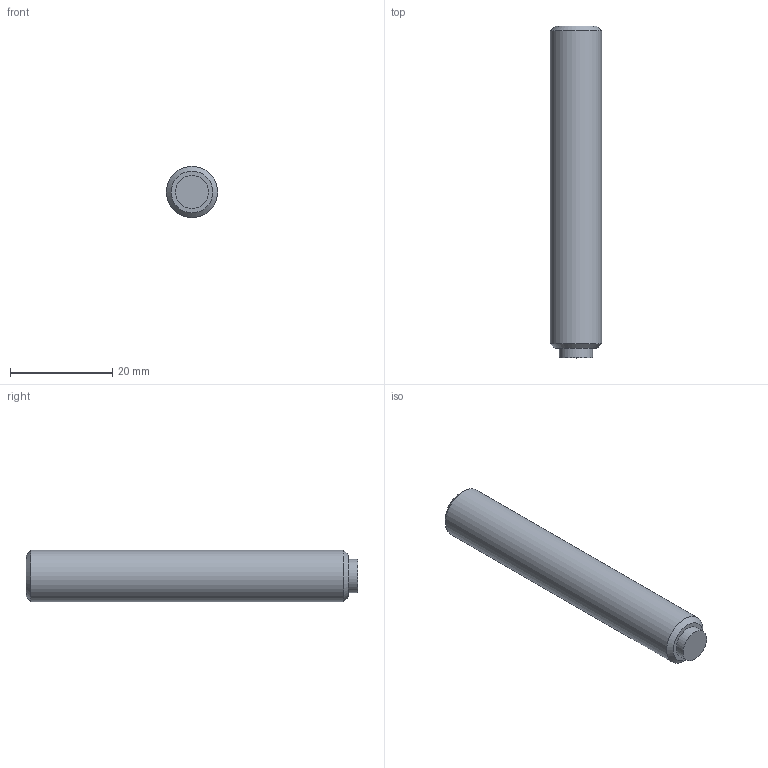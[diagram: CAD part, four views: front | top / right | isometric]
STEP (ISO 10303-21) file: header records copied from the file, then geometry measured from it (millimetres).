
FILE_DESCRIPTION( ( 'STEP AP203' ), '1' );
FILE_NAME( 'C:/Temp/Ganter_Step_05_03_2020/data/3_2/gn913_3/Grub screw GN 913.3-M10-63-KU.stp', '2020-03-13T05:35:40', ( 'License CC BY-ND 4.0' ), ( 'CADENAS' ), ' ', 'PARTsolutions', ' ' );
FILE_SCHEMA( ( 'CONFIG_CONTROL_DESIGN' ) );
Length unit declared in the file: millimetre
Products named in the file (1): _Grub screw GN 913.3-M10-63-KU
Bounding box: 10 x 64.9 x 10 mm (x, y, z)
Volume: 4856.2 mm3; surface area: 2242.9 mm2
Topology: 1 solids, 1 shells, 14 faces, 28 edges, 18 vertices
Faces by surface type: plane 10, cylinder 2, cone 2
Full cylindrical faces by diameter (mm): 6.5 x1, 10 x1
Entity records: 386 total; most frequent: DIRECTION 60, CARTESIAN_POINT 57, ORIENTED_EDGE 48, EDGE_CURVE 24, AXIS2_PLACEMENT_3D 21, EDGE_LOOP 20, VERTEX_POINT 18, LINE 18
